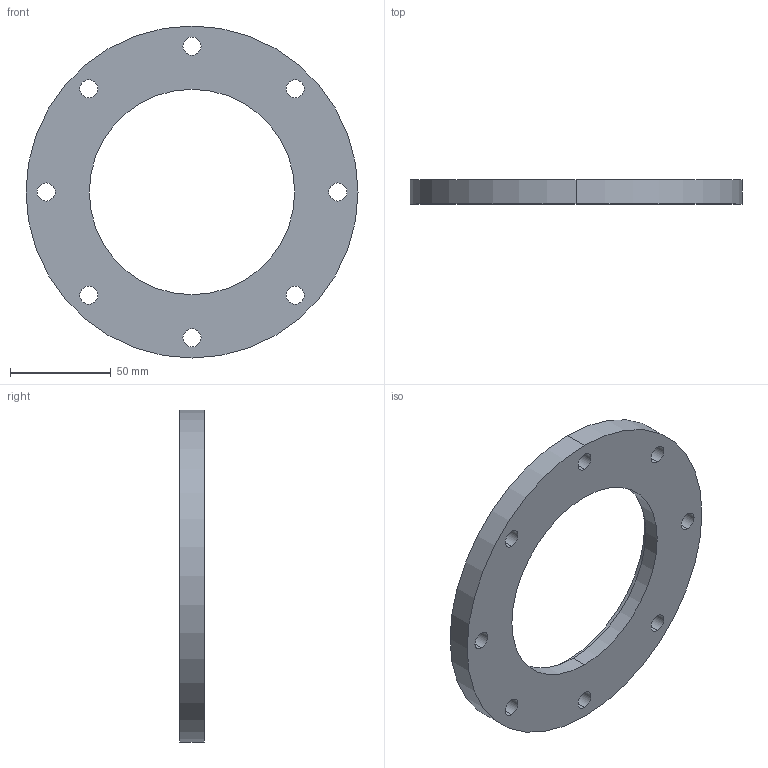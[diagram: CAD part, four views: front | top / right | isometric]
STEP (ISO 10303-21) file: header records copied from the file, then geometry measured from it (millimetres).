
FILE_DESCRIPTION (( 'STEP AP214' ), '1' );
FILE_NAME ('W5KL100.STEP', '2019-04-01T09:47:53', ( '' ), ( '' ), 'SwSTEP 2.0', 'SolidWorks 2018', '' );
FILE_SCHEMA (( 'AUTOMOTIVE_DESIGN' ));
Length unit declared in the file: millimetre
Products named in the file (1): W5KL100
Bounding box: 165 x 12 x 165 mm (x, y, z)
Volume: 148000.2 mm3; surface area: 38236.6 mm2
Topology: 1 solids, 1 shells, 25 faces, 66 edges, 44 vertices
Faces by surface type: cylinder 22, plane 3
Entity records: 874 total; most frequent: DIRECTION 162, CARTESIAN_POINT 136, ORIENTED_EDGE 132, AXIS2_PLACEMENT_3D 70, EDGE_CURVE 66, EDGE_LOOP 44, VERTEX_POINT 44, CIRCLE 44
